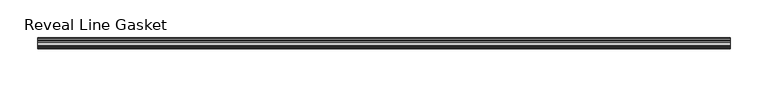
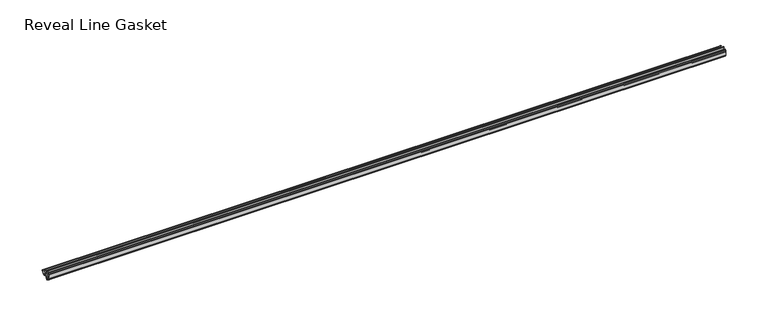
"""IFC4 building model written with IfcOpenShell, lengths in millimetres: proxy geometry, Accessories-Teknion-FHGR-AI_Healthcare-Reveal_Line_Gasket(Horizontal)-R2022 : Reveal Line Gasket."""

from ifc_helpers import new_model, si_unit, point, frame, frame_2d, origin, place, context, project, spatial, polyline, circle_curve, trimmed, segment, composite_curve, outline, extrude, source, transform, mapped, element, save


def reveal_line_gasket_d722d258(model_context):
    return source(origin(), model_context, "Body", "SweptSolid", [
        extrude(outline(composite_curve([segment(polyline([(-7.6326998, 1603.2), (-7.4091917, 1604.1554927), (-6.8813059, 1605.0884684)]), True, "CONTINUOUS"), segment(trimmed(circle_curve(frame_2d((-6.5243141, 1604.8864793)), 0.4101739), [point((-6.8813059, 1605.0884684))], [point((-6.1246704, 1604.7941347))], False, "CARTESIAN"), True, "CONTINUOUS"), segment(polyline([(-6.1246704, 1604.7941347), (-6.3626997, 1603.0979086), (-6.3626997, 1601.0654527)]), True, "CONTINUOUS"), segment(trimmed(circle_curve(frame_2d((-5.6959605, 1601.4819258)), 0.786124), [point((-6.3626997, 1601.0654527))], [point((-5.0926996, 1600.977875))], True, "CARTESIAN"), True, "CONTINUOUS"), segment(polyline([(-5.0926996, 1600.977875), (-0.7492996, 1600.977875), (-3.7293824, 1606.1395295)]), True, "CONTINUOUS"), segment(trimmed(circle_curve(frame_2d((-3.3132479, 1606.2049761)), 0.4212495), [point((-3.7293824, 1606.1395295))], [point((-3.0485022, 1606.5326358))], False, "CARTESIAN"), True, "CONTINUOUS"), segment(polyline([(-3.0485022, 1606.5326358), (0.5742594, 1600.977875), (4.8262978, 1600.977875), (3.1660374, 1603.8535297)]), True, "CONTINUOUS"), segment(trimmed(circle_curve(frame_2d((3.5978728, 1603.9118855)), 0.4357605), [point((3.1660374, 1603.8535297))], [point((3.864328, 1604.2566881))], False, "CARTESIAN"), True, "CONTINUOUS"), segment(polyline([(3.864328, 1604.2566881), (6.1944059, 1600.977875), (7.6326998, 1600.977875), (7.6326998, 1599.422125), (6.1944059, 1599.422125), (3.864328, 1596.1433119)]), True, "CONTINUOUS"), segment(trimmed(circle_curve(frame_2d((3.5978728, 1596.4881145)), 0.4357605), [point((3.864328, 1596.1433119))], [point((3.1660374, 1596.5464703))], False, "CARTESIAN"), True, "CONTINUOUS"), segment(polyline([(3.1660374, 1596.5464703), (4.8262978, 1599.422125), (0.5742594, 1599.422125), (-3.0485022, 1593.8673642)]), True, "CONTINUOUS"), segment(trimmed(circle_curve(frame_2d((-3.3132479, 1594.1950239)), 0.4212495), [point((-3.0485022, 1593.8673642))], [point((-3.7293824, 1594.2604705))], False, "CARTESIAN"), True, "CONTINUOUS"), segment(polyline([(-3.7293824, 1594.2604705), (-0.7492996, 1599.422125), (-5.0926996, 1599.422125)]), True, "CONTINUOUS"), segment(trimmed(circle_curve(frame_2d((-5.6959605, 1598.9180742)), 0.786124), [point((-5.0926996, 1599.422125))], [point((-6.3626997, 1599.3345473))], True, "CARTESIAN"), True, "CONTINUOUS"), segment(polyline([(-6.3626997, 1599.3345473), (-6.3626997, 1597.3020914), (-6.1246704, 1595.6058653)]), True, "CONTINUOUS"), segment(trimmed(circle_curve(frame_2d((-6.5243141, 1595.5135207)), 0.4101739), [point((-6.1246704, 1595.6058653))], [point((-6.8813059, 1595.3115316))], False, "CARTESIAN"), True, "CONTINUOUS"), segment(polyline([(-6.8813059, 1595.3115316), (-7.4091917, 1596.2445073), (-7.6326998, 1597.2), (-7.6326998, 1603.2)]), True, "CONTINUOUS")], self_intersect=False)), frame((-461.6704, 0.0, 0.0), z_axis=(1.0, 0.0, 0.0), x_axis=(0.0, 1.0, 0.0)), (0.0, 0.0, 1.0), 923.3408),
    ])


if __name__ == "__main__":
    model = new_model("IFC4")
    model_context = context("Model", 3, world=origin())
    ifc_project = project(units=[si_unit("LENGTHUNIT", "METRE", prefix="MILLI")], contexts=[model_context])
    site = spatial("IfcSite", under=ifc_project)
    building = spatial("IfcBuilding", under=site)
    placement = place(None, origin())
    reveal_line_gasket_shape = reveal_line_gasket_d722d258(model_context)
    element("IfcBuildingElementProxy", 1, Name="Accessories-Teknion-FHGR-AI_Healthcare-Reveal_Line_Gasket(Horizontal)-R2022 : Reveal Line Gasket", ObjectType="Accessories-Teknion-FHGR-AI_Healthcare-Reveal_Line_Gasket(Horizontal)-R2022 : Reveal Line Gasket", at=placement, inside=building, context=model_context, shape_type="MappedRepresentation", body=[
        mapped(reveal_line_gasket_shape, transform((0.0, 0.0, 0.0), x_axis=(1.0, 0.0, 0.0), y_axis=(0.0, 1.0, 0.0), z_axis=(0.0, 0.0, 1.0))),
    ])
    save(model, "model.ifc")
